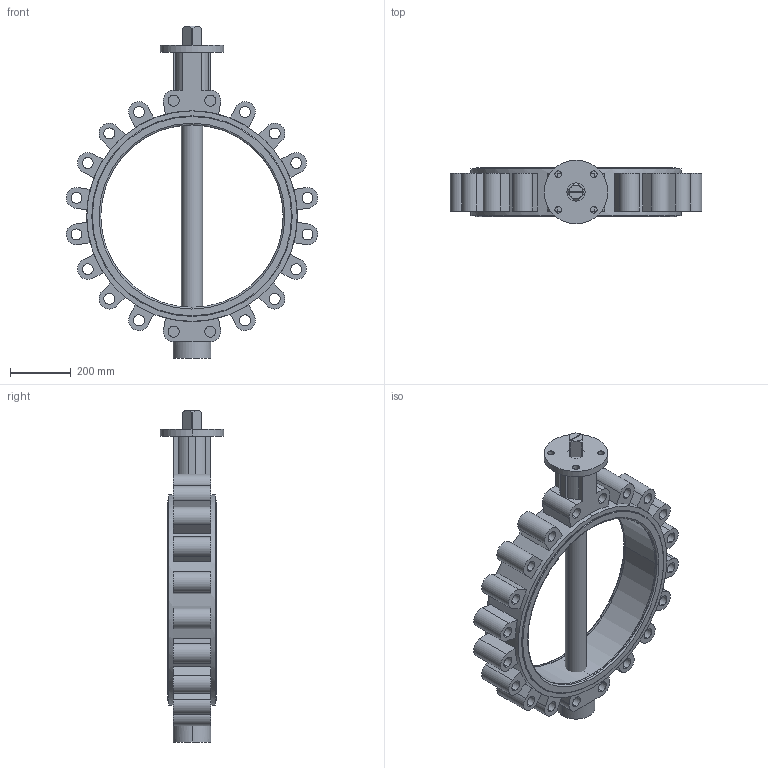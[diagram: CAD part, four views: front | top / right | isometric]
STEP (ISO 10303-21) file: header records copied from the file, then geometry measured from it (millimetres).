
FILE_DESCRIPTION (( 'STEP AP203' ), '1' );
FILE_NAME ('2502 LT型中线衬胶带销 无头蝶阀 DN600 PN25 CD0309399.STEP', '2026-05-29T07:35:17', ( '' ), ( '' ), 'SwSTEP 2.0', 'SolidWorks 2021', '' );
FILE_SCHEMA (( 'CONFIG_CONTROL_DESIGN' ));
Length unit declared in the file: millimetre
Products named in the file (4): GALA-D600-04AC-00; GALA-D600-01LC25-00; 2502 LT型中线衬胶带销 无头蝶阀 DN600 PN25 CD0309399; 中线通轴带销衬胶蝶阀阀轴-DN600-GALA-D600-03ZC-01
Assembly tree (3 placements, depth 2):
  2502 LT型中线衬胶带销 无头蝶阀 DN600 PN25 CD0309399
    GALA-D600-01LC25-00
    GALA-D600-04AC-00
    中线通轴带销衬胶蝶阀阀轴-DN600-GALA-D600-03ZC-01
Bounding box: 828.1 x 210 x 1093 mm (x, y, z)
Volume: 31895220.8 mm3; surface area: 2662543.5 mm2
Topology: 3 solids, 3 shells, 275 faces, 670 edges, 426 vertices
Faces by surface type: plane 117, cylinder 115, cone 25, torus 18
Entity records: 8754 total; most frequent: DIRECTION 1548, CARTESIAN_POINT 1521, ORIENTED_EDGE 1340, EDGE_CURVE 670, AXIS2_PLACEMENT_3D 613, VERTEX_POINT 426, EDGE_LOOP 344, CIRCLE 332
